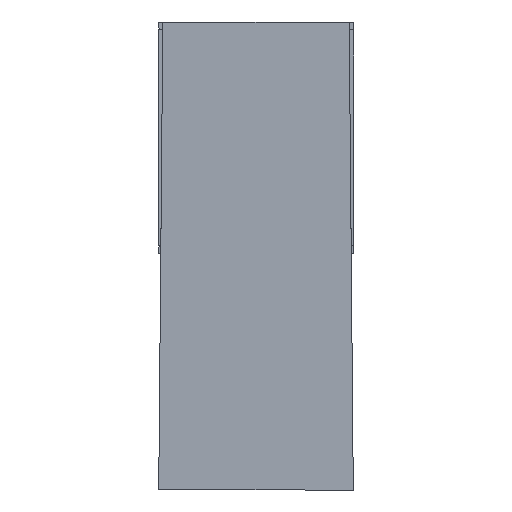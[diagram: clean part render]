
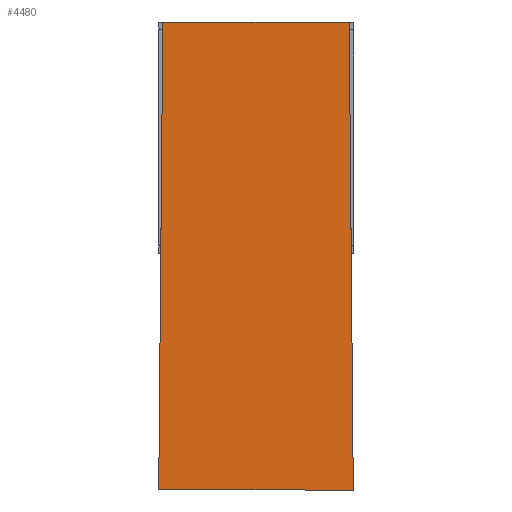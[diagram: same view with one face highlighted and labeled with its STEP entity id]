
A CAD part, left-side view. The second image highlights one B-rep face of the part: STEP entity #4480.
In plain terms, the highlighted planar face has unit normal (-1, 0, 0).
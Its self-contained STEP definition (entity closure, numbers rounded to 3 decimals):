
#144 = DIRECTION ( 'NONE',  ( 0., 1., 0. ) ) ;
#233 = AXIS2_PLACEMENT_3D ( 'NONE', #2236, #848, #3299 ) ;
#786 = VERTEX_POINT ( 'NONE', #1346 ) ;
#812 = DIRECTION ( 'NONE',  ( 0., 0.009, 1. ) ) ;
#831 = CARTESIAN_POINT ( 'NONE',  ( -144., -18.497, -88.677 ) ) ;
#848 = DIRECTION ( 'NONE',  ( 1., 0., 0. ) ) ;
#879 = FACE_OUTER_BOUND ( 'NONE', #4252, .T. ) ;
#1193 = CARTESIAN_POINT ( 'NONE',  ( -144., 18.5, -89. ) ) ;
#1346 = CARTESIAN_POINT ( 'NONE',  ( -144., 17.723, 0. ) ) ;
#1479 = LINE ( 'NONE', #2227, #2412 ) ;
#1498 = CARTESIAN_POINT ( 'NONE',  ( -144., 18.5, -89. ) ) ;
#1655 = EDGE_CURVE ( 'NONE', #2860, #1941, #4420, .T. ) ;
#1729 = VECTOR ( 'NONE', #812, 1000. ) ;
#1869 = ORIENTED_EDGE ( 'NONE', *, *, #2480, .F. ) ;
#1881 = PLANE ( 'NONE',  #233 ) ;
#1941 = VERTEX_POINT ( 'NONE', #4490 ) ;
#2095 = VERTEX_POINT ( 'NONE', #1498 ) ;
#2125 = ORIENTED_EDGE ( 'NONE', *, *, #1655, .T. ) ;
#2142 = LINE ( 'NONE', #2856, #3787 ) ;
#2154 = DIRECTION ( 'NONE',  ( 0., 1., 0. ) ) ;
#2227 = CARTESIAN_POINT ( 'NONE',  ( -144., 18.5, 0. ) ) ;
#2236 = CARTESIAN_POINT ( 'NONE',  ( -144., 18.5, -89. ) ) ;
#2412 = VECTOR ( 'NONE', #144, 1000. ) ;
#2480 = EDGE_CURVE ( 'NONE', #2860, #2095, #2142, .T. ) ;
#2638 = EDGE_CURVE ( 'NONE', #1941, #786, #1479, .T. ) ;
#2856 = CARTESIAN_POINT ( 'NONE',  ( -144., 18.5, -89. ) ) ;
#2860 = VERTEX_POINT ( 'NONE', #4162 ) ;
#2950 = DIRECTION ( 'NONE',  ( 0., -0.009, 1. ) ) ;
#3299 = DIRECTION ( 'NONE',  ( 0., 0., -1. ) ) ;
#3317 = ORIENTED_EDGE ( 'NONE', *, *, #2638, .T. ) ;
#3455 = VECTOR ( 'NONE', #2950, 1000. ) ;
#3787 = VECTOR ( 'NONE', #2154, 1000. ) ;
#4162 = CARTESIAN_POINT ( 'NONE',  ( -144., -18.5, -89. ) ) ;
#4252 = EDGE_LOOP ( 'NONE', ( #3317, #4453, #1869, #2125 ) ) ;
#4382 = LINE ( 'NONE', #1193, #3455 ) ;
#4420 = LINE ( 'NONE', #831, #1729 ) ;
#4453 = ORIENTED_EDGE ( 'NONE', *, *, #4492, .F. ) ;
#4480 = ADVANCED_FACE ( 'NONE', ( #879 ), #1881, .F. ) ;
#4490 = CARTESIAN_POINT ( 'NONE',  ( -144., -17.723, 0. ) ) ;
#4492 = EDGE_CURVE ( 'NONE', #2095, #786, #4382, .T. ) ;
